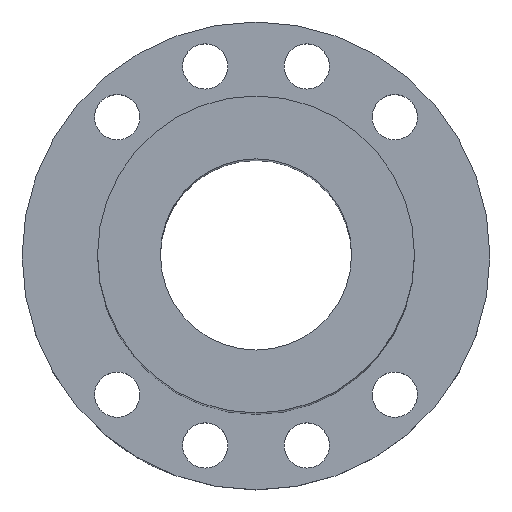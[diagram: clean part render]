
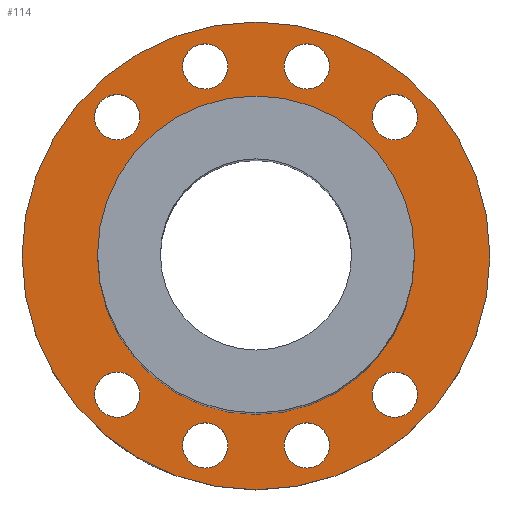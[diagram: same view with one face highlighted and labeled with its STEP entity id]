
A CAD part, top view. The second image highlights one B-rep face of the part: STEP entity #114.
In plain terms, the highlighted planar face has unit normal (0, 0, 1).
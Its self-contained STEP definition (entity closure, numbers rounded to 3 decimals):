
#99=PLANE('',#401);
#114=ADVANCED_FACE('',(#169,#170,#171,#172,#173,#174,#175,#176,#177,#178),
#99,.T.);
#169=FACE_BOUND('',#221,.T.);
#170=FACE_BOUND('',#222,.T.);
#171=FACE_BOUND('',#223,.T.);
#172=FACE_BOUND('',#224,.T.);
#173=FACE_BOUND('',#225,.T.);
#174=FACE_BOUND('',#226,.T.);
#175=FACE_BOUND('',#227,.T.);
#176=FACE_BOUND('',#228,.T.);
#177=FACE_BOUND('',#229,.T.);
#178=FACE_BOUND('',#230,.T.);
#221=EDGE_LOOP('',(#273));
#222=EDGE_LOOP('',(#274));
#223=EDGE_LOOP('',(#275));
#224=EDGE_LOOP('',(#276));
#225=EDGE_LOOP('',(#277));
#226=EDGE_LOOP('',(#278));
#227=EDGE_LOOP('',(#279));
#228=EDGE_LOOP('',(#280));
#229=EDGE_LOOP('',(#281));
#230=EDGE_LOOP('',(#282));
#273=ORIENTED_EDGE('',*,*,#316,.T.);
#274=ORIENTED_EDGE('',*,*,#337,.F.);
#275=ORIENTED_EDGE('',*,*,#336,.T.);
#276=ORIENTED_EDGE('',*,*,#335,.T.);
#277=ORIENTED_EDGE('',*,*,#318,.T.);
#278=ORIENTED_EDGE('',*,*,#334,.F.);
#279=ORIENTED_EDGE('',*,*,#333,.T.);
#280=ORIENTED_EDGE('',*,*,#332,.F.);
#281=ORIENTED_EDGE('',*,*,#331,.F.);
#282=ORIENTED_EDGE('',*,*,#338,.T.);
#290=VERTEX_POINT('',#495);
#292=VERTEX_POINT('',#557);
#305=VERTEX_POINT('',#644);
#306=VERTEX_POINT('',#647);
#307=VERTEX_POINT('',#650);
#308=VERTEX_POINT('',#653);
#309=VERTEX_POINT('',#656);
#310=VERTEX_POINT('',#659);
#311=VERTEX_POINT('',#662);
#312=VERTEX_POINT('',#665);
#316=EDGE_CURVE('',#290,#290,#342,.T.);
#318=EDGE_CURVE('',#292,#292,#343,.T.);
#331=EDGE_CURVE('',#305,#305,#355,.T.);
#332=EDGE_CURVE('',#306,#306,#356,.T.);
#333=EDGE_CURVE('',#307,#307,#357,.T.);
#334=EDGE_CURVE('',#308,#308,#358,.T.);
#335=EDGE_CURVE('',#309,#309,#359,.T.);
#336=EDGE_CURVE('',#310,#310,#360,.T.);
#337=EDGE_CURVE('',#311,#311,#361,.T.);
#338=EDGE_CURVE('',#312,#312,#362,.T.);
#342=CIRCLE('',#367,46.5);
#343=CIRCLE('',#369,31.5);
#355=CIRCLE('',#385,4.5);
#356=CIRCLE('',#387,4.5);
#357=CIRCLE('',#389,4.5);
#358=CIRCLE('',#391,4.5);
#359=CIRCLE('',#393,4.5);
#360=CIRCLE('',#395,4.5);
#361=CIRCLE('',#397,4.5);
#362=CIRCLE('',#399,4.5);
#367=AXIS2_PLACEMENT_3D('',#494,#411,#412);
#369=AXIS2_PLACEMENT_3D('',#556,#415,#416);
#385=AXIS2_PLACEMENT_3D('',#643,#447,#448);
#387=AXIS2_PLACEMENT_3D('',#646,#451,#452);
#389=AXIS2_PLACEMENT_3D('',#649,#455,#456);
#391=AXIS2_PLACEMENT_3D('',#652,#459,#460);
#393=AXIS2_PLACEMENT_3D('',#655,#463,#464);
#395=AXIS2_PLACEMENT_3D('',#658,#467,#468);
#397=AXIS2_PLACEMENT_3D('',#661,#471,#472);
#399=AXIS2_PLACEMENT_3D('',#664,#475,#476);
#401=AXIS2_PLACEMENT_3D('',#667,#479,#480);
#411=DIRECTION('',(0.,0.,1.));
#412=DIRECTION('',(1.,0.,0.));
#415=DIRECTION('',(0.,0.,-1.));
#416=DIRECTION('',(1.,0.,0.));
#447=DIRECTION('',(0.,0.,1.));
#448=DIRECTION('',(1.,0.,0.));
#451=DIRECTION('',(0.,0.,1.));
#452=DIRECTION('',(1.,0.,0.));
#455=DIRECTION('',(0.,0.,-1.));
#456=DIRECTION('',(1.,0.,0.));
#459=DIRECTION('',(0.,0.,1.));
#460=DIRECTION('',(-1.,0.,0.));
#463=DIRECTION('',(0.,0.,-1.));
#464=DIRECTION('',(1.,0.,0.));
#467=DIRECTION('',(0.,0.,-1.));
#468=DIRECTION('',(-1.,0.,0.));
#471=DIRECTION('',(0.,0.,1.));
#472=DIRECTION('',(-1.,0.,0.));
#475=DIRECTION('',(0.,0.,-1.));
#476=DIRECTION('',(-1.,0.,0.));
#479=DIRECTION('',(0.,0.,1.));
#480=DIRECTION('',(1.,0.,0.));
#494=CARTESIAN_POINT('',(0.,0.,14.));
#495=CARTESIAN_POINT('',(46.5,0.,14.));
#556=CARTESIAN_POINT('',(0.,0.,14.));
#557=CARTESIAN_POINT('',(31.5,0.,14.));
#643=CARTESIAN_POINT('',(-27.577,27.577,14.));
#644=CARTESIAN_POINT('',(-23.077,27.577,14.));
#646=CARTESIAN_POINT('',(-10.094,37.671,14.));
#647=CARTESIAN_POINT('',(-5.594,37.671,14.));
#649=CARTESIAN_POINT('',(-27.577,-27.577,14.));
#650=CARTESIAN_POINT('',(-23.077,-27.577,14.));
#652=CARTESIAN_POINT('',(27.577,-27.577,14.));
#653=CARTESIAN_POINT('',(23.077,-27.577,14.));
#655=CARTESIAN_POINT('',(-10.094,-37.671,14.));
#656=CARTESIAN_POINT('',(-5.594,-37.671,14.));
#658=CARTESIAN_POINT('',(10.094,37.671,14.));
#659=CARTESIAN_POINT('',(5.594,37.671,14.));
#661=CARTESIAN_POINT('',(10.094,-37.671,14.));
#662=CARTESIAN_POINT('',(5.594,-37.671,14.));
#664=CARTESIAN_POINT('',(27.577,27.577,14.));
#665=CARTESIAN_POINT('',(23.077,27.577,14.));
#667=CARTESIAN_POINT('',(5.047,-18.836,14.));
